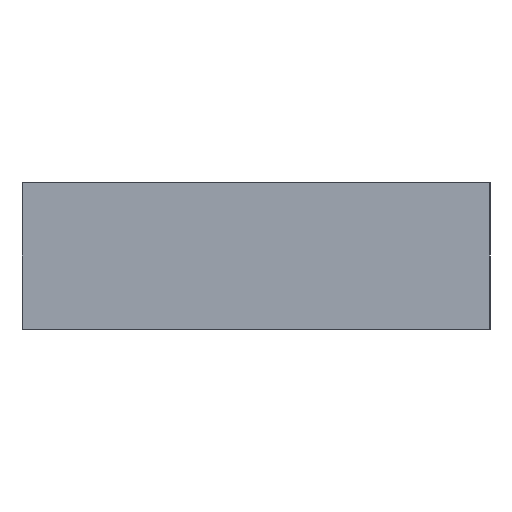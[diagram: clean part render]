
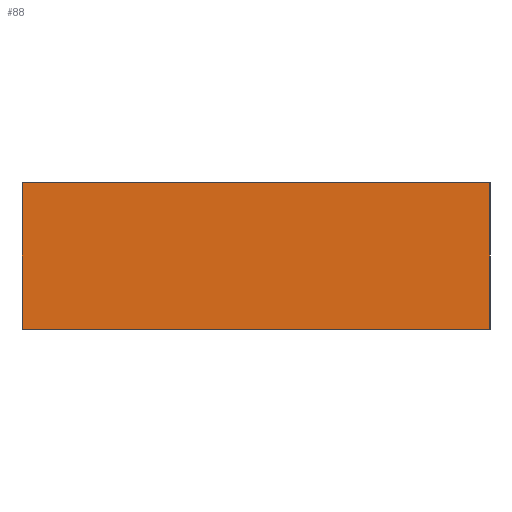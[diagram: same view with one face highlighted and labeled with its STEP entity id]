
A CAD part, left-side view. The second image highlights one B-rep face of the part: STEP entity #88.
In plain terms, the highlighted planar face has unit normal (-1, 0, 0).
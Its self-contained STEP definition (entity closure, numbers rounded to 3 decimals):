
#88 = ADVANCED_FACE( '', ( #120 ), #121, .T. );
#120 = FACE_OUTER_BOUND( '', #154, .T. );
#121 = PLANE( '', #155 );
#154 = EDGE_LOOP( '', ( #251, #252, #253, #254 ) );
#155 = AXIS2_PLACEMENT_3D( '', #255, #256, #257 );
#251 = ORIENTED_EDGE( '', *, *, #314, .T. );
#252 = ORIENTED_EDGE( '', *, *, #295, .F. );
#253 = ORIENTED_EDGE( '', *, *, #315, .F. );
#254 = ORIENTED_EDGE( '', *, *, #312, .T. );
#255 = CARTESIAN_POINT( '', ( -5., 0., 5. ) );
#256 = DIRECTION( '', ( -1., 0., 0. ) );
#257 = DIRECTION( '', ( 0., 1., 0. ) );
#295 = EDGE_CURVE( '', #341, #336, #343, .T. );
#312 = EDGE_CURVE( '', #371, #369, #372, .T. );
#314 = EDGE_CURVE( '', #369, #336, #374, .T. );
#315 = EDGE_CURVE( '', #371, #341, #375, .T. );
#336 = VERTEX_POINT( '', #400 );
#341 = VERTEX_POINT( '', #407 );
#343 = LINE( '', #410, #411 );
#369 = VERTEX_POINT( '', #452 );
#371 = VERTEX_POINT( '', #455 );
#372 = LINE( '', #456, #457 );
#374 = LINE( '', #460, #461 );
#375 = LINE( '', #462, #463 );
#400 = CARTESIAN_POINT( '', ( -5., -32., -5. ) );
#407 = CARTESIAN_POINT( '', ( -5., -32., 5. ) );
#410 = CARTESIAN_POINT( '', ( -5., -32., 5. ) );
#411 = VECTOR( '', #495, 1. );
#452 = CARTESIAN_POINT( '', ( -5., 0., -5. ) );
#455 = CARTESIAN_POINT( '', ( -5., 0., 5. ) );
#456 = CARTESIAN_POINT( '', ( -5., 0., 5. ) );
#457 = VECTOR( '', #512, 1. );
#460 = CARTESIAN_POINT( '', ( -5., 0., -5. ) );
#461 = VECTOR( '', #514, 1. );
#462 = CARTESIAN_POINT( '', ( -5., 0., 5. ) );
#463 = VECTOR( '', #515, 1. );
#495 = DIRECTION( '', ( 0., 0., -1. ) );
#512 = DIRECTION( '', ( 0., 0., -1. ) );
#514 = DIRECTION( '', ( 0., -1., 0. ) );
#515 = DIRECTION( '', ( 0., -1., 0. ) );
